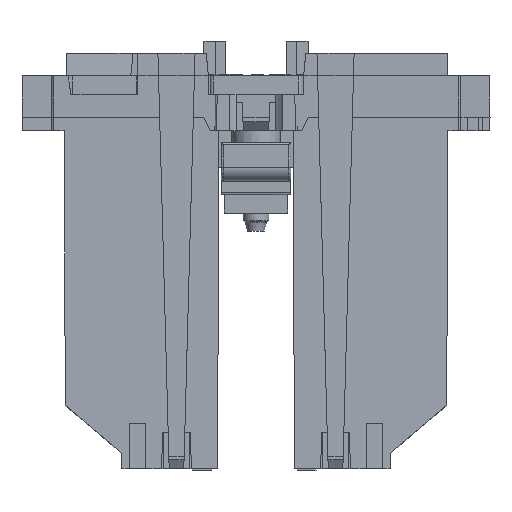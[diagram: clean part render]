
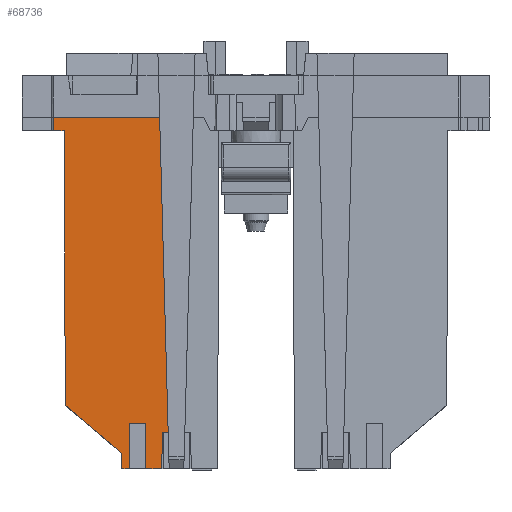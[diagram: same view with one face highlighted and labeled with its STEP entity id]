
A CAD part, front view. The second image highlights one B-rep face of the part: STEP entity #68736.
In plain terms, the highlighted planar face has unit normal (0, -1, -0.004).
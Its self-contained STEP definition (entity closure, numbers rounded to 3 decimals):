
#452 = VECTOR ( 'NONE', #69290, 1000. ) ;
#922 = LINE ( 'NONE', #44285, #39377 ) ;
#1668 = CARTESIAN_POINT ( 'NONE',  ( -14.7, -9.95, -4.5 ) ) ;
#2730 = CARTESIAN_POINT ( 'NONE',  ( -10.2, -9.799, -39. ) ) ;
#3608 = ORIENTED_EDGE ( 'NONE', *, *, #86399, .F. ) ;
#4373 = ORIENTED_EDGE ( 'NONE', *, *, #5402, .F. ) ;
#5402 = EDGE_CURVE ( 'NONE', #7247, #78563, #58647, .T. ) ;
#7247 = VERTEX_POINT ( 'NONE', #72896 ) ;
#7458 = DIRECTION ( 'NONE',  ( -0.027, -0.004, 1. ) ) ;
#8790 = VERTEX_POINT ( 'NONE', #18306 ) ;
#10580 = VECTOR ( 'NONE', #30698, 1000. ) ;
#10792 = DIRECTION ( 'NONE',  ( -0.004, -0.004, 1. ) ) ;
#10989 = LINE ( 'NONE', #79705, #49536 ) ;
#11519 = CARTESIAN_POINT ( 'NONE',  ( -24.311, -9.825, -33.101 ) ) ;
#13727 = CARTESIAN_POINT ( 'NONE',  ( -8.985, -9.951, -4.186 ) ) ;
#14871 = CARTESIAN_POINT ( 'NONE',  ( 0., -9.95, -4.5 ) ) ;
#15494 = CARTESIAN_POINT ( 'NONE',  ( 0., -9.782, -43. ) ) ;
#17290 = VERTEX_POINT ( 'NONE', #89087 ) ;
#18306 = CARTESIAN_POINT ( 'NONE',  ( -10.34, -9.782, -43. ) ) ;
#19483 = CARTESIAN_POINT ( 'NONE',  ( -20.862, -9.812, -36.032 ) ) ;
#19767 = VECTOR ( 'NONE', #20545, 1000. ) ;
#20545 = DIRECTION ( 'NONE',  ( -1., 0., 0. ) ) ;
#20726 = EDGE_CURVE ( 'NONE', #75942, #52505, #59252, .T. ) ;
#21479 = VECTOR ( 'NONE', #90803, 1000. ) ;
#21516 = VECTOR ( 'NONE', #10792, 1000. ) ;
#24653 = VERTEX_POINT ( 'NONE', #2730 ) ;
#24968 = DIRECTION ( 'NONE',  ( -0.027, -0.004, 1. ) ) ;
#25135 = VECTOR ( 'NONE', #75274, 1000. ) ;
#25308 = VECTOR ( 'NONE', #24968, 1000. ) ;
#27165 = VECTOR ( 'NONE', #7458, 1000. ) ;
#27375 = ORIENTED_EDGE ( 'NONE', *, *, #72564, .T. ) ;
#30394 = ORIENTED_EDGE ( 'NONE', *, *, #35741, .T. ) ;
#30618 = EDGE_CURVE ( 'NONE', #43588, #41775, #37772, .T. ) ;
#30687 = CARTESIAN_POINT ( 'NONE',  ( -12.104, -9.804, -38. ) ) ;
#30698 = DIRECTION ( 'NONE',  ( 1., 0., 0. ) ) ;
#30705 = ORIENTED_EDGE ( 'NONE', *, *, #41462, .T. ) ;
#32125 = VECTOR ( 'NONE', #44930, 1000. ) ;
#32700 = ORIENTED_EDGE ( 'NONE', *, *, #20726, .T. ) ;
#33377 = EDGE_CURVE ( 'NONE', #7247, #17290, #39687, .T. ) ;
#35114 = ORIENTED_EDGE ( 'NONE', *, *, #81902, .F. ) ;
#35394 = ORIENTED_EDGE ( 'NONE', *, *, #33377, .T. ) ;
#35741 = EDGE_CURVE ( 'NONE', #52505, #91918, #51507, .T. ) ;
#37772 = LINE ( 'NONE', #11519, #55812 ) ;
#37820 = LINE ( 'NONE', #66614, #19767 ) ;
#38361 = EDGE_CURVE ( 'NONE', #8790, #24653, #66018, .T. ) ;
#38880 = ORIENTED_EDGE ( 'NONE', *, *, #99049, .T. ) ;
#39377 = VECTOR ( 'NONE', #59767, 1000. ) ;
#39687 = LINE ( 'NONE', #44975, #98441 ) ;
#39860 = CARTESIAN_POINT ( 'NONE',  ( -14.7, -9.782, -43. ) ) ;
#40613 = VECTOR ( 'NONE', #55442, 1000. ) ;
#41462 = EDGE_CURVE ( 'NONE', #76081, #75114, #88376, .T. ) ;
#41775 = VERTEX_POINT ( 'NONE', #19483 ) ;
#43588 = VERTEX_POINT ( 'NONE', #82397 ) ;
#44019 = VERTEX_POINT ( 'NONE', #56796 ) ;
#44285 = CARTESIAN_POINT ( 'NONE',  ( 0., -9.799, -39. ) ) ;
#44930 = DIRECTION ( 'NONE',  ( 0.006, -0.004, 1. ) ) ;
#44975 = CARTESIAN_POINT ( 'NONE',  ( -22.143, -9.943, -5.998 ) ) ;
#45793 = CARTESIAN_POINT ( 'NONE',  ( -9.693, -9.813, -35.864 ) ) ;
#45808 = DIRECTION ( 'NONE',  ( 0., -1., -0.004 ) ) ;
#46732 = LINE ( 'NONE', #67776, #21479 ) ;
#47666 = EDGE_CURVE ( 'NONE', #24653, #76081, #922, .T. ) ;
#48206 = VECTOR ( 'NONE', #56181, 1000. ) ;
#49536 = VECTOR ( 'NONE', #95004, 1000. ) ;
#49717 = CARTESIAN_POINT ( 'NONE',  ( -9.608, -9.799, -39. ) ) ;
#51343 = EDGE_CURVE ( 'NONE', #75942, #72953, #59392, .T. ) ;
#51507 = LINE ( 'NONE', #76734, #10580 ) ;
#52400 = ORIENTED_EDGE ( 'NONE', *, *, #51343, .F. ) ;
#52505 = VERTEX_POINT ( 'NONE', #78431 ) ;
#55442 = DIRECTION ( 'NONE',  ( 1., 0., 0. ) ) ;
#55812 = VECTOR ( 'NONE', #80763, 1000. ) ;
#56181 = DIRECTION ( 'NONE',  ( -0.009, -0.004, 1. ) ) ;
#56796 = CARTESIAN_POINT ( 'NONE',  ( -12.075, -9.782, -43. ) ) ;
#56863 = CARTESIAN_POINT ( 'NONE',  ( -21., -9.95, -4.592 ) ) ;
#57419 = EDGE_CURVE ( 'NONE', #41775, #81583, #80411, .T. ) ;
#58510 = ORIENTED_EDGE ( 'NONE', *, *, #30618, .F. ) ;
#58647 = LINE ( 'NONE', #1668, #40613 ) ;
#59252 = LINE ( 'NONE', #90842, #32125 ) ;
#59392 = LINE ( 'NONE', #15494, #452 ) ;
#59767 = DIRECTION ( 'NONE',  ( 1., 0., 0. ) ) ;
#66018 = LINE ( 'NONE', #13727, #25135 ) ;
#66614 = CARTESIAN_POINT ( 'NONE',  ( 0., -9.782, -43. ) ) ;
#67311 = ORIENTED_EDGE ( 'NONE', *, *, #89352, .F. ) ;
#67776 = CARTESIAN_POINT ( 'NONE',  ( 0., -9.943, -6. ) ) ;
#68654 = LINE ( 'NONE', #94339, #48206 ) ;
#68736 = ADVANCED_FACE ( 'NONE', ( #98891 ), #91704, .T. ) ;
#69290 = DIRECTION ( 'NONE',  ( -1., 0., 0. ) ) ;
#70958 = ORIENTED_EDGE ( 'NONE', *, *, #47666, .T. ) ;
#72564 = EDGE_CURVE ( 'NONE', #17290, #81583, #46732, .T. ) ;
#72896 = CARTESIAN_POINT ( 'NONE',  ( -22.153, -9.95, -4.5 ) ) ;
#72953 = VERTEX_POINT ( 'NONE', #39860 ) ;
#75114 = VERTEX_POINT ( 'NONE', #78852 ) ;
#75274 = DIRECTION ( 'NONE',  ( 0.035, -0.004, 0.999 ) ) ;
#75942 = VERTEX_POINT ( 'NONE', #93612 ) ;
#76081 = VERTEX_POINT ( 'NONE', #49717 ) ;
#76734 = CARTESIAN_POINT ( 'NONE',  ( 0., -9.804, -38. ) ) ;
#78431 = CARTESIAN_POINT ( 'NONE',  ( -13.796, -9.804, -38. ) ) ;
#78563 = VERTEX_POINT ( 'NONE', #83551 ) ;
#78852 = CARTESIAN_POINT ( 'NONE',  ( -10.096, -9.878, -20.989 ) ) ;
#79705 = CARTESIAN_POINT ( 'NONE',  ( -12.104, -9.804, -38.008 ) ) ;
#79929 = ORIENTED_EDGE ( 'NONE', *, *, #38361, .T. ) ;
#80411 = LINE ( 'NONE', #56863, #21516 ) ;
#80763 = DIRECTION ( 'NONE',  ( -0.762, -0.003, 0.648 ) ) ;
#80864 = CARTESIAN_POINT ( 'NONE',  ( -20.993, -9.943, -6. ) ) ;
#81149 = ORIENTED_EDGE ( 'NONE', *, *, #57419, .F. ) ;
#81583 = VERTEX_POINT ( 'NONE', #80864 ) ;
#81902 = EDGE_CURVE ( 'NONE', #72953, #43588, #68654, .T. ) ;
#82397 = CARTESIAN_POINT ( 'NONE',  ( -14.715, -9.79, -41.257 ) ) ;
#83093 = EDGE_LOOP ( 'NONE', ( #4373, #35394, #27375, #81149, #58510, #35114, #52400, #32700, #30394, #67311, #3608, #79929, #70958, #30705, #38880 ) ) ;
#83246 = DIRECTION ( 'NONE',  ( 0.007, 0.004, -1. ) ) ;
#83551 = CARTESIAN_POINT ( 'NONE',  ( -10.542, -9.95, -4.5 ) ) ;
#86348 = CARTESIAN_POINT ( 'NONE',  ( -9.693, -9.813, -35.864 ) ) ;
#86399 = EDGE_CURVE ( 'NONE', #8790, #44019, #37820, .T. ) ;
#86530 = LINE ( 'NONE', #86348, #25308 ) ;
#88376 = LINE ( 'NONE', #45793, #27165 ) ;
#89087 = CARTESIAN_POINT ( 'NONE',  ( -22.143, -9.943, -6. ) ) ;
#89352 = EDGE_CURVE ( 'NONE', #44019, #91918, #10989, .T. ) ;
#90803 = DIRECTION ( 'NONE',  ( 1., 0., 0. ) ) ;
#90842 = CARTESIAN_POINT ( 'NONE',  ( -13.596, -9.95, -4.419 ) ) ;
#91704 = PLANE ( 'NONE',  #97098 ) ;
#91918 = VERTEX_POINT ( 'NONE', #30687 ) ;
#93612 = CARTESIAN_POINT ( 'NONE',  ( -13.825, -9.782, -43. ) ) ;
#94339 = CARTESIAN_POINT ( 'NONE',  ( -15.035, -9.949, -4.631 ) ) ;
#95004 = DIRECTION ( 'NONE',  ( -0.006, -0.004, 1. ) ) ;
#97098 = AXIS2_PLACEMENT_3D ( 'NONE', #14871, #45808, #99389 ) ;
#98441 = VECTOR ( 'NONE', #83246, 1000. ) ;
#98891 = FACE_OUTER_BOUND ( 'NONE', #83093, .T. ) ;
#99049 = EDGE_CURVE ( 'NONE', #75114, #78563, #86530, .T. ) ;
#99389 = DIRECTION ( 'NONE',  ( 0., 0.004, -1. ) ) ;
